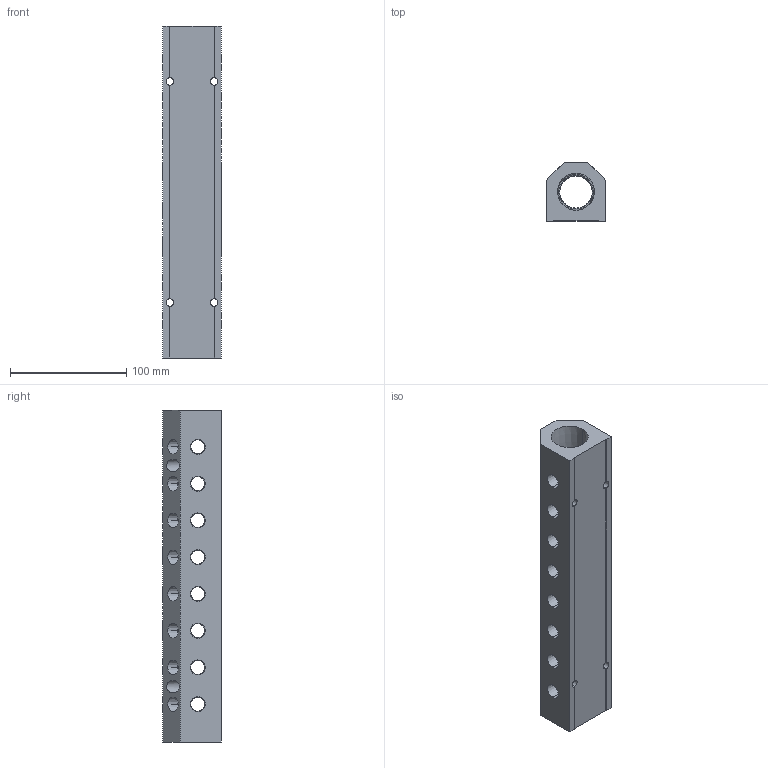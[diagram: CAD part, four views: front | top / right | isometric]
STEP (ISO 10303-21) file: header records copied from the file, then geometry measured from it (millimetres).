
FILE_DESCRIPTION (( 'STEP AP214' ), '1' );
FILE_NAME ('ALM8ABCDE-N4N16-286R.STEP', '2023-11-02T06:52:05', ( '' ), ( '' ), 'SwSTEP 2.0', 'SolidWorks 2020', '' );
FILE_SCHEMA (( 'AUTOMOTIVE_DESIGN' ));
Length unit declared in the file: millimetre
Products named in the file (1): ALM8ABCDE-N4N16-286R
Bounding box: 50.8 x 50.8 x 286 mm (x, y, z)
Volume: 414411.1 mm3; surface area: 94786.7 mm2
Topology: 1 solids, 1 shells, 426 faces, 1181 edges, 782 vertices
Faces by surface type: plane 229, cone 88, bspline 87, cylinder 22
Entity records: 26045 total; most frequent: CARTESIAN_POINT 11677, ORIENTED_EDGE 2362, DIRECTION 1683, EDGE_CURVE 1181, VERTEX_POINT 782, VECTOR 755, LINE 755, EDGE_LOOP 541
